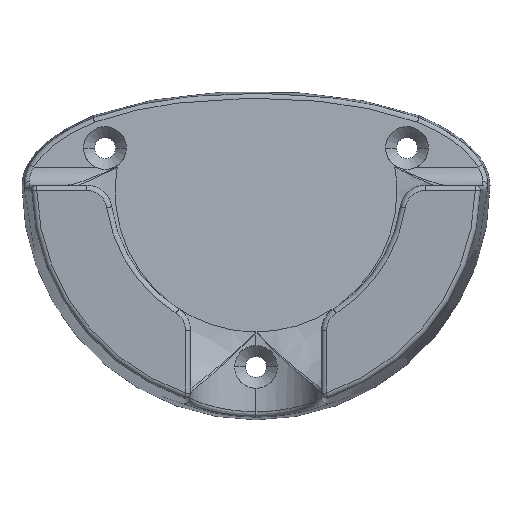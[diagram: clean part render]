
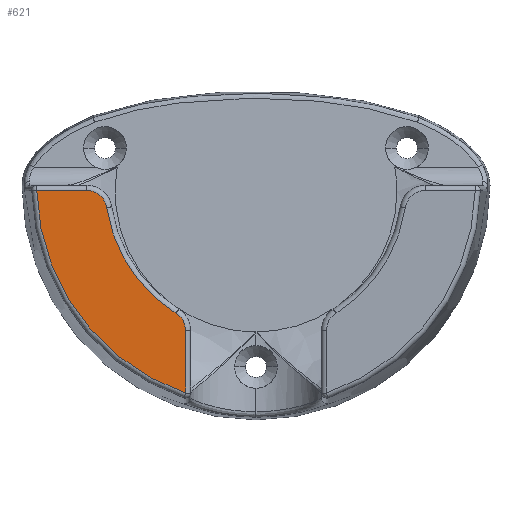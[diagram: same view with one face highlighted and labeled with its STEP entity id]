
A CAD part, top view. The second image highlights one B-rep face of the part: STEP entity #621.
In plain terms, the highlighted planar face has unit normal (0, 0, 1).
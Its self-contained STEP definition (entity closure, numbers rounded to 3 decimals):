
#621=ADVANCED_FACE('',(#1446),#1447,.T.);
#1446=FACE_OUTER_BOUND('',#10736,.T.);
#1447=PLANE('',#10737);
#10736=EDGE_LOOP('',(#25741,#25742,#25743,#25744,#25745,#25746));
#10737=AXIS2_PLACEMENT_3D('',#25747,#25748,#25749);
#25741=ORIENTED_EDGE('',*,*,#27813,.T.);
#25742=ORIENTED_EDGE('',*,*,#27814,.T.);
#25743=ORIENTED_EDGE('',*,*,#27815,.T.);
#25744=ORIENTED_EDGE('',*,*,#27154,.T.);
#25745=ORIENTED_EDGE('',*,*,#27816,.T.);
#25746=ORIENTED_EDGE('',*,*,#27703,.T.);
#25747=CARTESIAN_POINT('',(0.0,0.0,56.0));
#25748=DIRECTION('',(0.0,0.0,1.0));
#25749=DIRECTION('',(1.0,0.0,0.0));
#27154=EDGE_CURVE('',#28290,#28291,#28292,.T.);
#27703=EDGE_CURVE('',#29191,#29196,#29198,.T.);
#27813=EDGE_CURVE('',#29196,#29334,#29335,.T.);
#27814=EDGE_CURVE('',#29334,#28589,#29336,.T.);
#27815=EDGE_CURVE('',#28589,#28290,#29337,.T.);
#27816=EDGE_CURVE('',#28291,#29191,#29338,.T.);
#28290=VERTEX_POINT('',#30039);
#28291=VERTEX_POINT('',#30040);
#28292=LINE('',#30041,#30042);
#28589=VERTEX_POINT('',#30931);
#29191=VERTEX_POINT('',#32399);
#29196=VERTEX_POINT('',#32404);
#29198=CIRCLE('',#32406,30.0);
#29334=VERTEX_POINT('',#32790);
#29335=CIRCLE('',#32791,4.0);
#29336=LINE('',#32792,#32793);
#29337=CIRCLE('',#32794,43.579);
#29338=CIRCLE('',#32795,4.0);
#30039=CARTESIAN_POINT('',(-14.0,-41.269,56.0));
#30040=CARTESIAN_POINT('',(-14.0,-28.844,56.0));
#30041=CARTESIAN_POINT('',(-14.0,0.,56.0));
#30042=VECTOR('',#34176,1000.0);
#30931=CARTESIAN_POINT('',(-43.567,-1.,56.0));
#32399=CARTESIAN_POINT('',(-15.882,-25.451,56.0));
#32404=CARTESIAN_POINT('',(-29.674,-4.412,56.0));
#32406=AXIS2_PLACEMENT_3D('',#34684,#34685,#34686);
#32790=CARTESIAN_POINT('',(-33.63,-1.0,56.0));
#32791=AXIS2_PLACEMENT_3D('',#34758,#34759,#34760);
#32792=CARTESIAN_POINT('',(0.,-1.,56.0));
#32793=VECTOR('',#34761,1000.0);
#32794=AXIS2_PLACEMENT_3D('',#34762,#34763,#34764);
#32795=AXIS2_PLACEMENT_3D('',#34765,#34766,#34767);
#34176=DIRECTION('',(0.,1.0,0.0));
#34684=CARTESIAN_POINT('',(0.0,0.0,56.0));
#34685=DIRECTION('',(0.0,0.0,-1.0));
#34686=DIRECTION('',(1.0,0.0,0.0));
#34758=CARTESIAN_POINT('',(-33.63,-5.0,56.0));
#34759=DIRECTION('',(0.0,0.0,1.0));
#34760=DIRECTION('',(1.0,0.0,0.0));
#34761=DIRECTION('',(-1.0,0.,0.0));
#34762=CARTESIAN_POINT('',(0.0,0.0,56.0));
#34763=DIRECTION('',(0.0,0.0,1.0));
#34764=DIRECTION('',(1.0,0.0,0.0));
#34765=CARTESIAN_POINT('',(-18.0,-28.844,56.0));
#34766=DIRECTION('',(0.0,0.0,1.0));
#34767=DIRECTION('',(1.0,0.0,0.0));
